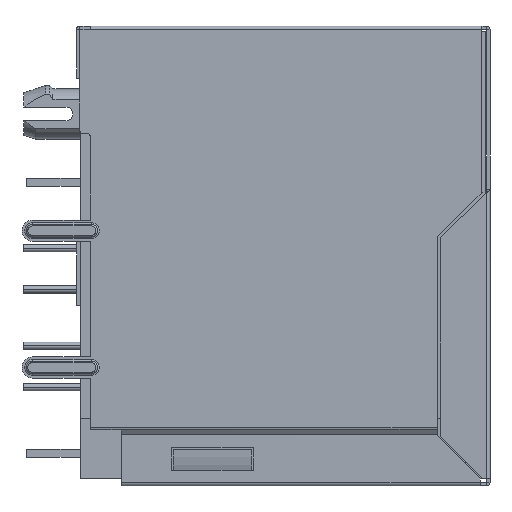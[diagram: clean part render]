
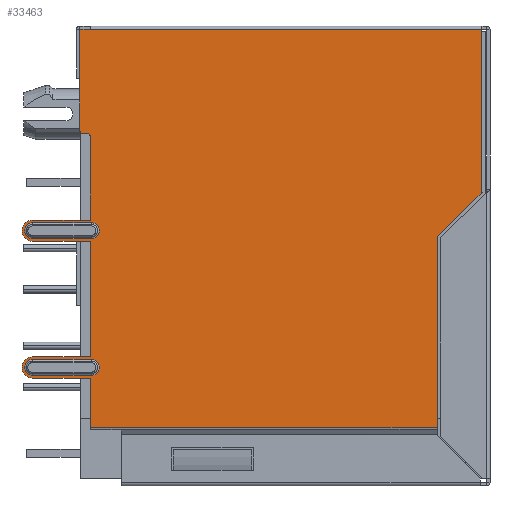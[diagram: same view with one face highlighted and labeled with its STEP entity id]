
A CAD part, left-side view. The second image highlights one B-rep face of the part: STEP entity #33463.
In plain terms, the highlighted planar face has unit normal (-1, 0, 0) as drawn and (1, 0, 0) by its records, which use the part's own axes.
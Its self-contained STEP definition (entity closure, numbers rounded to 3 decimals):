
#27504=DIRECTION('',(0.,0.,1.));
#27505=VECTOR('',#27504,3.6);
#27506=CARTESIAN_POINT('',(8.175,-1.065,-28.1));
#27507=LINE('',#27506,#27505);
#27508=CARTESIAN_POINT('',(8.175,-1.555,-24.5));
#27509=DIRECTION('',(1.,0.,0.));
#27510=DIRECTION('',(0.,1.,0.));
#27511=AXIS2_PLACEMENT_3D('',#27508,#27509,#27510);
#27513=DIRECTION('',(0.,0.,-1.));
#27514=VECTOR('',#27513,3.6);
#27515=CARTESIAN_POINT('',(8.175,-2.045,-24.5));
#27516=LINE('',#27515,#27514);
#27517=CARTESIAN_POINT('',(8.175,-1.555,-28.1));
#27518=DIRECTION('',(1.,0.,0.));
#27519=DIRECTION('',(0.,-1.,0.));
#27520=AXIS2_PLACEMENT_3D('',#27517,#27518,#27519);
#27522=DIRECTION('',(0.,0.,1.));
#27523=VECTOR('',#27522,3.6);
#27524=CARTESIAN_POINT('',(8.175,7.335,-28.1));
#27525=LINE('',#27524,#27523);
#27526=CARTESIAN_POINT('',(8.175,6.845,-24.5));
#27527=DIRECTION('',(1.,0.,0.));
#27528=DIRECTION('',(0.,1.,0.));
#27529=AXIS2_PLACEMENT_3D('',#27526,#27527,#27528);
#27531=DIRECTION('',(0.,0.,-1.));
#27532=VECTOR('',#27531,3.6);
#27533=CARTESIAN_POINT('',(8.175,6.355,-24.5));
#27534=LINE('',#27533,#27532);
#27535=CARTESIAN_POINT('',(8.175,6.845,-28.1));
#27536=DIRECTION('',(1.,0.,0.));
#27537=DIRECTION('',(0.,-1.,0.));
#27538=AXIS2_PLACEMENT_3D('',#27535,#27536,#27537);
#27540=CARTESIAN_POINT('',(8.175,-7.725,-25.));
#27541=DIRECTION('',(1.,0.,0.));
#27542=DIRECTION('',(0.,0.,-1.));
#27543=AXIS2_PLACEMENT_3D('',#27540,#27541,#27542);
#27545=DIRECTION('',(0.,1.,0.));
#27546=VECTOR('',#27545,6.2);
#27547=CARTESIAN_POINT('',(8.175,-13.925,-25.2));
#27548=LINE('',#27547,#27546);
#27549=DIRECTION('',(0.,0.,-1.));
#27550=VECTOR('',#27549,0.65);
#27551=CARTESIAN_POINT('',(8.175,-13.925,-24.55));
#27552=LINE('',#27551,#27550);
#27553=DIRECTION('',(0.,1.,0.));
#27554=VECTOR('',#27553,10.015);
#27555=CARTESIAN_POINT('',(8.175,-13.925,-0.5));
#27556=LINE('',#27555,#27554);
#27557=DIRECTION('',(0.,0.,1.));
#27558=VECTOR('',#27557,0.014);
#27559=CARTESIAN_POINT('',(8.175,-3.91,-0.5));
#27560=LINE('',#27559,#27558);
#27561=DIRECTION('',(0.,-0.699,0.715));
#27562=VECTOR('',#27561,3.864);
#27563=CARTESIAN_POINT('',(8.175,-1.209,-3.25));
#27564=LINE('',#27563,#27562);
#27565=DIRECTION('',(0.,-1.,0.));
#27566=VECTOR('',#27565,10.084);
#27567=CARTESIAN_POINT('',(8.175,8.875,-3.25));
#27568=LINE('',#27567,#27566);
#27569=DIRECTION('',(0.,1.,0.));
#27570=VECTOR('',#27569,1.38);
#27571=CARTESIAN_POINT('',(8.175,7.495,-24.55));
#27572=LINE('',#27571,#27570);
#27573=DIRECTION('',(0.,0.,1.));
#27574=VECTOR('',#27573,3.55);
#27575=CARTESIAN_POINT('',(8.175,7.495,-28.1));
#27576=LINE('',#27575,#27574);
#27577=CARTESIAN_POINT('',(8.175,6.845,-28.1));
#27578=DIRECTION('',(1.,0.,0.));
#27579=DIRECTION('',(0.,-1.,0.));
#27580=AXIS2_PLACEMENT_3D('',#27577,#27578,#27579);
#27582=DIRECTION('',(0.,0.,-1.));
#27583=VECTOR('',#27582,3.55);
#27584=CARTESIAN_POINT('',(8.175,6.195,-24.55));
#27585=LINE('',#27584,#27583);
#27586=DIRECTION('',(0.,1.,0.));
#27587=VECTOR('',#27586,7.1);
#27588=CARTESIAN_POINT('',(8.175,-0.905,-24.55));
#27589=LINE('',#27588,#27587);
#27590=DIRECTION('',(0.,0.,1.));
#27591=VECTOR('',#27590,3.55);
#27592=CARTESIAN_POINT('',(8.175,-0.905,-28.1));
#27593=LINE('',#27592,#27591);
#27594=CARTESIAN_POINT('',(8.175,-1.555,-28.1));
#27595=DIRECTION('',(1.,0.,0.));
#27596=DIRECTION('',(0.,-1.,0.));
#27597=AXIS2_PLACEMENT_3D('',#27594,#27595,#27596);
#27599=DIRECTION('',(0.,0.,-1.));
#27600=VECTOR('',#27599,3.55);
#27601=CARTESIAN_POINT('',(8.175,-2.205,-24.55));
#27602=LINE('',#27601,#27600);
#27603=DIRECTION('',(0.,1.,0.));
#27604=VECTOR('',#27603,5.12);
#27605=CARTESIAN_POINT('',(8.175,-7.325,-24.55));
#27606=LINE('',#27605,#27604);
#27607=DIRECTION('',(0.,0.,1.));
#27608=VECTOR('',#27607,0.25);
#27609=CARTESIAN_POINT('',(8.175,-7.525,-25.));
#27610=LINE('',#27609,#27608);
#27771=CARTESIAN_POINT('',(8.175,-7.325,-24.75));
#27772=DIRECTION('',(-1.,0.,0.));
#27773=DIRECTION('',(0.,-1.,0.));
#27774=AXIS2_PLACEMENT_3D('',#27771,#27772,#27773);
#27821=DIRECTION('',(0.,1.,0.));
#27822=VECTOR('',#27821,1.684);
#27823=CARTESIAN_POINT('',(8.175,8.875,-24.55));
#27824=LINE('',#27823,#27822);
#27846=DIRECTION('',(0.,0.,-1.));
#27847=VECTOR('',#27846,21.3);
#27848=CARTESIAN_POINT('',(8.175,10.559,-3.25));
#27849=LINE('',#27848,#27847);
#27868=DIRECTION('',(0.,1.,0.));
#27869=VECTOR('',#27868,1.684);
#27870=CARTESIAN_POINT('',(8.175,8.875,-3.25));
#27871=LINE('',#27870,#27869);
#28176=DIRECTION('',(0.,0.,-1.));
#28177=VECTOR('',#28176,24.05);
#28178=CARTESIAN_POINT('',(8.175,-13.925,-0.5));
#28179=LINE('',#28178,#28177);
#29643=CARTESIAN_POINT('',(8.175,8.875,-3.25));
#29644=CARTESIAN_POINT('',(8.175,-1.209,-3.25));
#29645=VERTEX_POINT('',#29643);
#29646=VERTEX_POINT('',#29644);
#29647=CARTESIAN_POINT('',(8.175,-13.925,-24.55));
#29649=VERTEX_POINT('',#29647);
#29655=CARTESIAN_POINT('',(8.175,8.875,-24.55));
#29657=VERTEX_POINT('',#29655);
#29665=CARTESIAN_POINT('',(8.175,10.559,-3.25));
#29666=VERTEX_POINT('',#29665);
#29673=CARTESIAN_POINT('',(8.175,10.559,-24.55));
#29674=VERTEX_POINT('',#29673);
#29717=CARTESIAN_POINT('',(8.175,-13.925,-0.5));
#29718=CARTESIAN_POINT('',(8.175,-3.91,-0.5));
#29719=VERTEX_POINT('',#29717);
#29720=VERTEX_POINT('',#29718);
#29721=CARTESIAN_POINT('',(8.175,-3.91,-0.486));
#29722=VERTEX_POINT('',#29721);
#29925=CARTESIAN_POINT('',(8.175,-2.205,-24.55));
#29926=CARTESIAN_POINT('',(8.175,-2.205,-28.1));
#29927=VERTEX_POINT('',#29925);
#29928=VERTEX_POINT('',#29926);
#29929=CARTESIAN_POINT('',(8.175,-0.905,-28.1));
#29930=VERTEX_POINT('',#29929);
#29931=CARTESIAN_POINT('',(8.175,-0.905,-24.55));
#29932=VERTEX_POINT('',#29931);
#29933=CARTESIAN_POINT('',(8.175,6.195,-24.55));
#29934=CARTESIAN_POINT('',(8.175,6.195,-28.1));
#29935=VERTEX_POINT('',#29933);
#29936=VERTEX_POINT('',#29934);
#29937=CARTESIAN_POINT('',(8.175,7.495,-28.1));
#29938=VERTEX_POINT('',#29937);
#29939=CARTESIAN_POINT('',(8.175,7.495,-24.55));
#29940=VERTEX_POINT('',#29939);
#30013=CARTESIAN_POINT('',(8.175,-1.065,-28.1));
#30014=CARTESIAN_POINT('',(8.175,-1.065,-24.5));
#30015=VERTEX_POINT('',#30013);
#30016=VERTEX_POINT('',#30014);
#30017=CARTESIAN_POINT('',(8.175,-2.045,-24.5));
#30018=VERTEX_POINT('',#30017);
#30019=CARTESIAN_POINT('',(8.175,-2.045,-28.1));
#30020=VERTEX_POINT('',#30019);
#30125=CARTESIAN_POINT('',(8.175,7.335,-28.1));
#30126=CARTESIAN_POINT('',(8.175,7.335,-24.5));
#30127=VERTEX_POINT('',#30125);
#30128=VERTEX_POINT('',#30126);
#30129=CARTESIAN_POINT('',(8.175,6.355,-24.5));
#30130=VERTEX_POINT('',#30129);
#30131=CARTESIAN_POINT('',(8.175,6.355,-28.1));
#30132=VERTEX_POINT('',#30131);
#30209=CARTESIAN_POINT('',(8.175,-13.925,-25.2));
#30210=VERTEX_POINT('',#30209);
#30217=CARTESIAN_POINT('',(8.175,-7.525,-24.75));
#30219=VERTEX_POINT('',#30217);
#30221=CARTESIAN_POINT('',(8.175,-7.325,-24.55));
#30223=VERTEX_POINT('',#30221);
#30233=CARTESIAN_POINT('',(8.175,-7.725,-25.2));
#30234=CARTESIAN_POINT('',(8.175,-7.525,-25.));
#30235=VERTEX_POINT('',#30233);
#30236=VERTEX_POINT('',#30234);
#33393=CARTESIAN_POINT('',(8.175,-14.125,-18.764));
#33394=DIRECTION('',(1.,0.,0.));
#33395=DIRECTION('',(0.,0.,-1.));
#33396=AXIS2_PLACEMENT_3D('',#33393,#33394,#33395);
#33397=PLANE('',#33396);
#33399=ORIENTED_EDGE('',*,*,#33398,.F.);
#33401=ORIENTED_EDGE('',*,*,#33400,.F.);
#33403=ORIENTED_EDGE('',*,*,#33402,.F.);
#33405=ORIENTED_EDGE('',*,*,#33404,.F.);
#33406=ORIENTED_EDGE('',*,*,#33383,.T.);
#33408=ORIENTED_EDGE('',*,*,#33407,.T.);
#33410=ORIENTED_EDGE('',*,*,#33409,.F.);
#33412=ORIENTED_EDGE('',*,*,#33411,.F.);
#33414=ORIENTED_EDGE('',*,*,#33413,.T.);
#33416=ORIENTED_EDGE('',*,*,#33415,.T.);
#33418=ORIENTED_EDGE('',*,*,#33417,.F.);
#33420=ORIENTED_EDGE('',*,*,#33419,.F.);
#33422=ORIENTED_EDGE('',*,*,#33421,.F.);
#33424=ORIENTED_EDGE('',*,*,#33423,.F.);
#33426=ORIENTED_EDGE('',*,*,#33425,.F.);
#33428=ORIENTED_EDGE('',*,*,#33427,.F.);
#33430=ORIENTED_EDGE('',*,*,#33429,.F.);
#33432=ORIENTED_EDGE('',*,*,#33431,.F.);
#33434=ORIENTED_EDGE('',*,*,#33433,.F.);
#33436=ORIENTED_EDGE('',*,*,#33435,.F.);
#33438=ORIENTED_EDGE('',*,*,#33437,.F.);
#33440=ORIENTED_EDGE('',*,*,#33439,.F.);
#33441=EDGE_LOOP('',(#33399,#33401,#33403,#33405,#33406,#33408,#33410,#33412,
#33414,#33416,#33418,#33420,#33422,#33424,#33426,#33428,#33430,#33432,#33434,
#33436,#33438,#33440));
#33442=FACE_OUTER_BOUND('',#33441,.F.);
#33444=ORIENTED_EDGE('',*,*,#33443,.T.);
#33446=ORIENTED_EDGE('',*,*,#33445,.T.);
#33448=ORIENTED_EDGE('',*,*,#33447,.T.);
#33450=ORIENTED_EDGE('',*,*,#33449,.T.);
#33451=EDGE_LOOP('',(#33444,#33446,#33448,#33450));
#33452=FACE_BOUND('',#33451,.F.);
#33454=ORIENTED_EDGE('',*,*,#33453,.T.);
#33456=ORIENTED_EDGE('',*,*,#33455,.T.);
#33458=ORIENTED_EDGE('',*,*,#33457,.T.);
#33460=ORIENTED_EDGE('',*,*,#33459,.T.);
#33461=EDGE_LOOP('',(#33454,#33456,#33458,#33460));
#33462=FACE_BOUND('',#33461,.F.);
#33463=ADVANCED_FACE('',(#33442,#33452,#33462),#33397,.T.);
#27512=CIRCLE('',#27511,0.49);
#27521=CIRCLE('',#27520,0.49);
#27530=CIRCLE('',#27529,0.49);
#27539=CIRCLE('',#27538,0.49);
#27544=CIRCLE('',#27543,0.2);
#27581=CIRCLE('',#27580,0.65);
#27598=CIRCLE('',#27597,0.65);
#27775=CIRCLE('',#27774,0.2);
#33383=EDGE_CURVE('',#29719,#29720,#27556,.T.);
#33398=EDGE_CURVE('',#30235,#30236,#27544,.T.);
#33400=EDGE_CURVE('',#30210,#30235,#27548,.T.);
#33402=EDGE_CURVE('',#29649,#30210,#27552,.T.);
#33404=EDGE_CURVE('',#29719,#29649,#28179,.T.);
#33407=EDGE_CURVE('',#29720,#29722,#27560,.T.);
#33409=EDGE_CURVE('',#29646,#29722,#27564,.T.);
#33411=EDGE_CURVE('',#29645,#29646,#27568,.T.);
#33413=EDGE_CURVE('',#29645,#29666,#27871,.T.);
#33415=EDGE_CURVE('',#29666,#29674,#27849,.T.);
#33417=EDGE_CURVE('',#29657,#29674,#27824,.T.);
#33419=EDGE_CURVE('',#29940,#29657,#27572,.T.);
#33421=EDGE_CURVE('',#29938,#29940,#27576,.T.);
#33423=EDGE_CURVE('',#29936,#29938,#27581,.T.);
#33425=EDGE_CURVE('',#29935,#29936,#27585,.T.);
#33427=EDGE_CURVE('',#29932,#29935,#27589,.T.);
#33429=EDGE_CURVE('',#29930,#29932,#27593,.T.);
#33431=EDGE_CURVE('',#29928,#29930,#27598,.T.);
#33433=EDGE_CURVE('',#29927,#29928,#27602,.T.);
#33435=EDGE_CURVE('',#30223,#29927,#27606,.T.);
#33437=EDGE_CURVE('',#30219,#30223,#27775,.T.);
#33439=EDGE_CURVE('',#30236,#30219,#27610,.T.);
#33443=EDGE_CURVE('',#30127,#30128,#27525,.T.);
#33445=EDGE_CURVE('',#30128,#30130,#27530,.T.);
#33447=EDGE_CURVE('',#30130,#30132,#27534,.T.);
#33449=EDGE_CURVE('',#30132,#30127,#27539,.T.);
#33453=EDGE_CURVE('',#30015,#30016,#27507,.T.);
#33455=EDGE_CURVE('',#30016,#30018,#27512,.T.);
#33457=EDGE_CURVE('',#30018,#30020,#27516,.T.);
#33459=EDGE_CURVE('',#30020,#30015,#27521,.T.);
